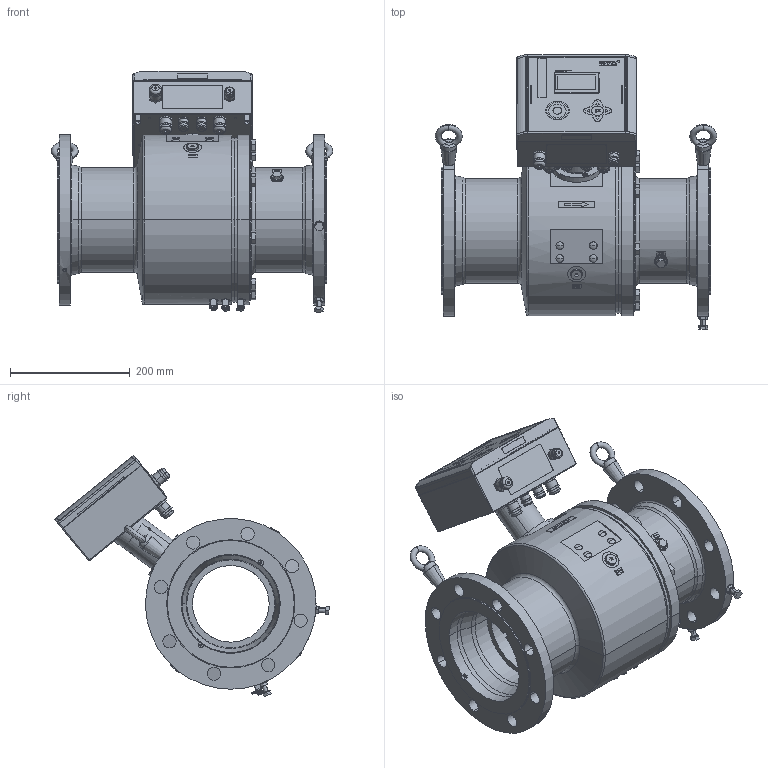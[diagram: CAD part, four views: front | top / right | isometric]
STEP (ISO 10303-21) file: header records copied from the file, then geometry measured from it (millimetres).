
FILE_DESCRIPTION((''),'2;1');
FILE_NAME('STANDARD_SW0001_PN10_L','2023-09-11T08:11:50',('R85801'),(''),'CREO PARAMETRIC BY PTC INC, 2022281','CREO PARAMETRIC BY PTC INC, 2022281','');
FILE_SCHEMA(('AP242_MANAGED_MODEL_BASED_3D_ENGINEERING_MIM_LF { 1 0 10303 442 1 1 4 }'));
Products named in the file (2): STANDARD_SW0001_PN10_L; 10038_S235JRG2
Bounding box: 469.97 x 458.26 x 402.57 mm (x, y, z)
Volume: 10794863.5 mm3; surface area: 1297102 mm2
Topology: 12 solids, 22 shells, 4021 faces, 10117 edges, 6424 vertices
Faces by surface type: plane 1923, cylinder 730, extrusion 632, cone 376, torus 284, sphere 40, bspline 36
Entity records: 191731 total; most frequent: CARTESIAN_POINT 31091, ORIENTED_EDGE 20106, DIRECTION 18378, PRESENTATION_STYLE_ASSIGNMENT 14687, STYLED_ITEM 10702, CURVE_STYLE 10689, EDGE_CURVE 10053, VECTOR 6618
